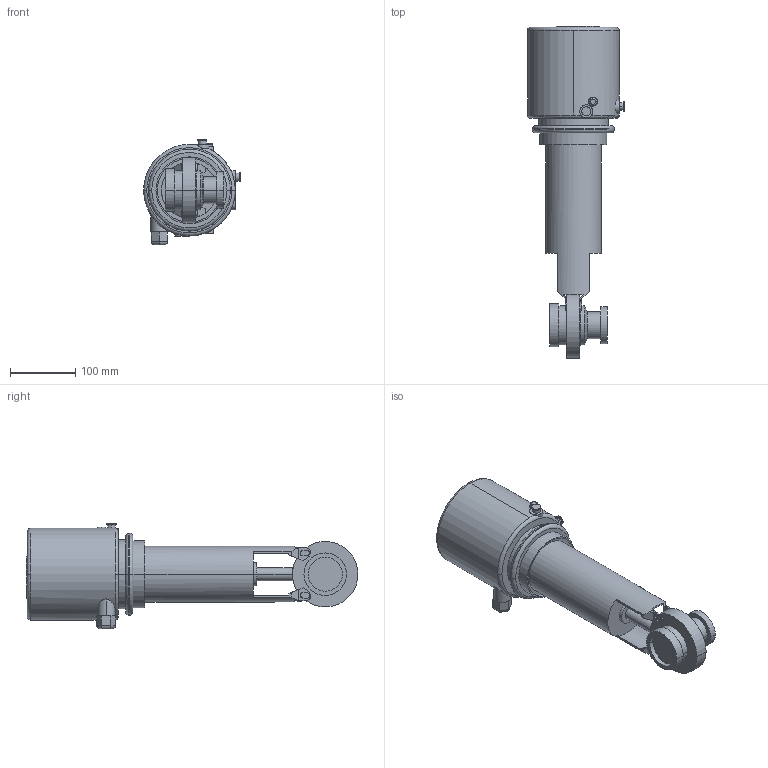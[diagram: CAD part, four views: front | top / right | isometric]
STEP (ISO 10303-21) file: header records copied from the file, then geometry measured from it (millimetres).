
FILE_DESCRIPTION(('Creo Elements/Direct Modeling STEP Export'),'2;1');
FILE_NAME('SV1-40-CU4-1K2G.stp','2014-07-07T14:40:02',(''),(''),'Creo Elements/Direct Modeling STEP processor for AP214 (Solid Model)','Creo Elements/Direct Modeling 17.0D 15-Jul-2011 (C) Parametric Technology GmbH','');
FILE_SCHEMA(('AUTOMOTIVE_DESIGN { 1 0 10303 214 1 1 1 1 }'));
Length unit declared in the file: millimetre
Products named in the file (3): SV1-40-FZ-1K2G; CU4-T-SPX_logo; SV1-40-CU4-1K2G
Assembly tree (2 placements, depth 2):
  SV1-40-CU4-1K2G
    CU4-T-SPX_logo
    SV1-40-FZ-1K2G
Bounding box: 148 x 506.93 x 161.4 mm (x, y, z)
Volume: 3822444 mm3; surface area: 231538.4 mm2
Topology: 2 solids, 2 shells, 260 faces, 683 edges, 439 vertices
Faces by surface type: plane 118, cylinder 93, extrusion 33, torus 14, cone 2
Entity records: 11816 total; most frequent: CARTESIAN_POINT 5720, ORIENTED_EDGE 1366, DIRECTION 1096, EDGE_CURVE 683, VERTEX_POINT 439, AXIS2_PLACEMENT_3D 380, VECTOR 336, LINE 303
